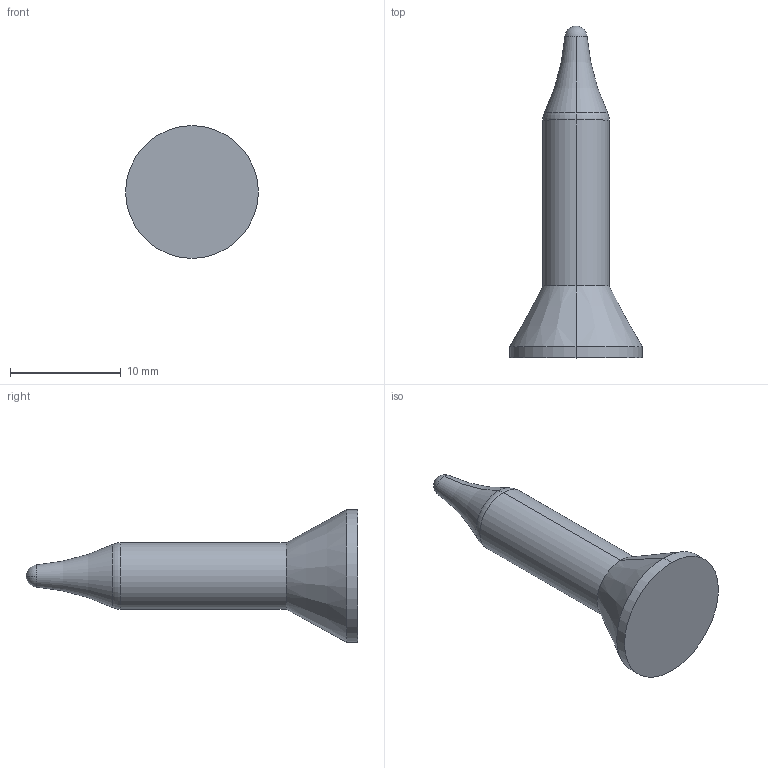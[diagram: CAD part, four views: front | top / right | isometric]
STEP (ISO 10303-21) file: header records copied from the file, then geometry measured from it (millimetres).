
FILE_DESCRIPTION (( 'STEP AP203' ), '1' );
FILE_NAME ('KCF-SW-PN-5P.STEP', '2022-04-04T07:59:30', ( '' ), ( '' ), 'SwSTEP 2.0', 'SolidWorks 2015', '' );
FILE_SCHEMA (( 'CONFIG_CONTROL_DESIGN' ));
Length unit declared in the file: millimetre
Products named in the file (2): KCF-SW-PN-5P
Bounding box: 12 x 30 x 12 mm (x, y, z)
Volume: 989 mm3; surface area: 706.7 mm2
Topology: 1 solids, 1 shells, 13 faces, 26 edges, 15 vertices
Faces by surface type: cylinder 4, torus 4, cone 2, sphere 2, plane 1
Entity records: 499 total; most frequent: DIRECTION 76, CARTESIAN_POINT 56, ORIENTED_EDGE 52, AXIS2_PLACEMENT_3D 35, EDGE_CURVE 26, CIRCLE 20, PERSON_AND_ORGANIZATION 16, VERTEX_POINT 15
